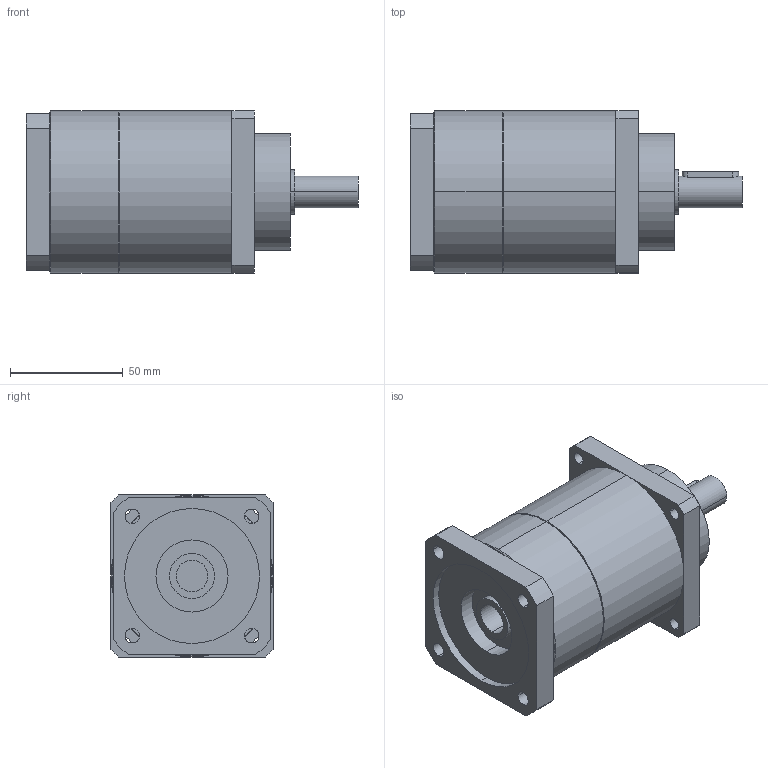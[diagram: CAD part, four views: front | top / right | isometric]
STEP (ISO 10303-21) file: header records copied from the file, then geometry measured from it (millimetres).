
FILE_DESCRIPTION(('CoCreate Modeling STEP Export'),'2;1');
FILE_NAME('GPT75_ig-9-12-16-20-25-28-35-40-50-70-100_14_B5T_14_P04.stp','2014-08-27T13:37:42',(''),(''),'CoCreate Modeling STEP processor for AP214 (Solid Model)','CoCreate Modeling 16.00C 25-Feb-2009 (C) Parametric Technology GmbH','');
FILE_SCHEMA(('AUTOMOTIVE_DESIGN { 1 0 10303 214 1 1 1 1 }'));
Length unit declared in the file: millimetre
Products named in the file (2): GPT75_ig-9-12-16-20-25-28-35-40-50-70-100_14_B5T_14_P04
Assembly tree (1 placements, depth 2):
  GPT75_ig-9-12-16-20-25-28-35-40-50-70-100_14_B5T_14_P04
    GPT75_ig-9-12-16-20-25-28-35-40-50-70-100_14_B5T_14_P04
Bounding box: 147.5 x 72 x 72 mm (x, y, z)
Volume: 449151.5 mm3; surface area: 44462.1 mm2
Topology: 1 solids, 1 shells, 88 faces, 220 edges, 139 vertices
Faces by surface type: cylinder 46, plane 38, cone 4
Entity records: 2646 total; most frequent: CARTESIAN_POINT 738, ORIENTED_EDGE 440, DIRECTION 334, EDGE_CURVE 220, VERTEX_POINT 139, AXIS2_PLACEMENT_3D 123, EDGE_LOOP 109, VECTOR 88
